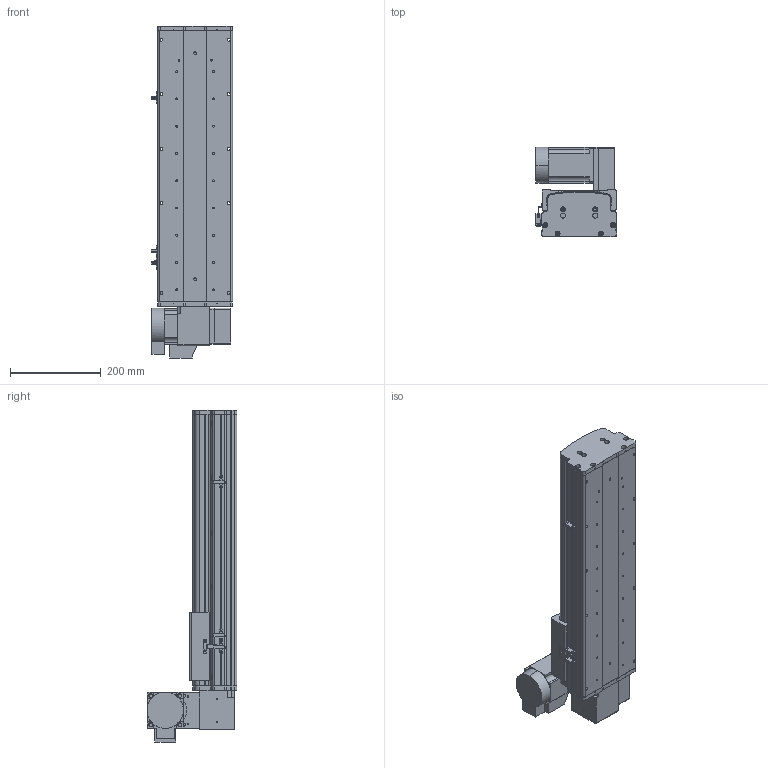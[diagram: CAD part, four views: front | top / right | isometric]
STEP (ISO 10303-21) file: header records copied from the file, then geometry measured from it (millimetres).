
FILE_DESCRIPTION (( 'STEP AP214' ), '1' );
FILE_NAME ('KSD165B-S350-MRU-CM .STEP', '2017-10-17T02:00:04', ( '微软用户' ), ( '微软中国' ), 'SwSTEP 2.0', 'SolidWorks 2014', '' );
FILE_SCHEMA (( 'AUTOMOTIVE_DESIGN' ));
Length unit declared in the file: millimetre
Products named in the file (17): KSD165模组-同步带-防撞垫2; KSD165模组同步带-防撞垫1; KSD165耀郪-ヶ傷啣1-肮祭湍; KSD165模组-后端板1-同步带; KSD165模组-同步带滑动座-最新版; KSD165B-S350-MRU-CM ; 130宽模组马达安装板连板上下折丝杆同步带; 130宽模组保护罩上下左右折-同步带; HTPA26S5M250-A-H8 400W萇儂蚚 ; HTPA26S5M250-A-H8 750W萇儂蚚; KSD165模组-同步带防尘盖1-350行程-最新版; KSD165模组同步带底板-350行程-最新; 拸秶雄ん750W侜督萇儂; 165宽马达安装板同步带右; U倰嫖萇假蚾璃; U倰嫖萇EEㄜSX672; 覜茼え68遵圉猾敕
Assembly tree (20 placements, depth 2):
  KSD165B-S350-MRU-CM 
    KSD165模组-同步带滑动座-最新版
    KSD165模组-后端板1-同步带
    KSD165耀郪-ヶ傷啣1-肮祭湍
    KSD165模组同步带-防撞垫1
    KSD165模组-同步带-防撞垫2
    覜茼え68遵圉猾敕
    U倰嫖萇EEㄜSX672  x3
    U倰嫖萇假蚾璃  x3
    165宽马达安装板同步带右
    拸秶雄ん750W侜督萇儂
    KSD165模组同步带底板-350行程-最新
    KSD165模组-同步带防尘盖1-350行程-最新版
    HTPA26S5M250-A-H8 750W萇儂蚚
    HTPA26S5M250-A-H8 400W萇儂蚚 
    130宽模组保护罩上下左右折-同步带
    130宽模组马达安装板连板上下折丝杆同步带
Bounding box: 178.7 x 198 x 730.5 mm (x, y, z)
Volume: 4986606.5 mm3; surface area: 1148528.5 mm2
Topology: 21 solids, 21 shells, 1871 faces, 5268 edges, 3436 vertices
Faces by surface type: cylinder 1183, plane 576, cone 112
Entity records: 59924 total; most frequent: CARTESIAN_POINT 12268, DIRECTION 9920, ORIENTED_EDGE 9196, EDGE_CURVE 4598, AXIS2_PLACEMENT_3D 3878, VERTEX_POINT 3028, CIRCLE 2204, LINE 2164
